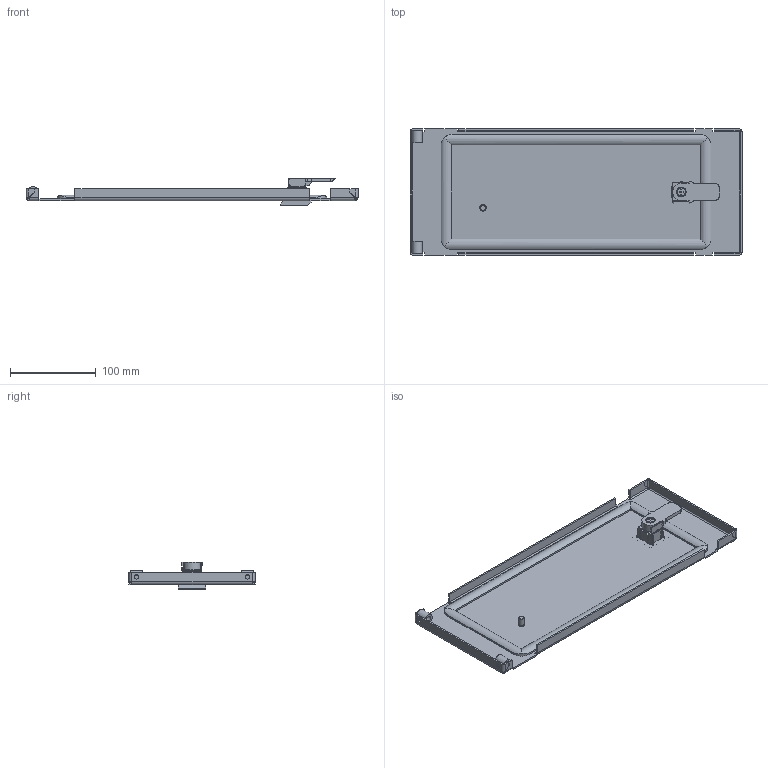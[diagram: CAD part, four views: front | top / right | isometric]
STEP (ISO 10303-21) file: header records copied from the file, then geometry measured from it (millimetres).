
FILE_DESCRIPTION(('STEP AP203'), '1');
FILE_NAME('Äâåðü ñåêöèîííàÿ 150õ400 ìì OptiBox M 419348 ÊÝÀÇ', '', ('UNSPECIFIED'), ('UNSPECIFIED'), 'C3D Converter', 'C3D Toolkit', '');
FILE_SCHEMA(('CONFIG_CONTROL_DESIGN'));
Length unit declared in the file: millimetre
Bounding box: 386.4 x 147 x 32.2 mm (x, y, z)
Volume: 191512.3 mm3; surface area: 172405.2 mm2
Topology: 6 solids, 6 shells, 355 faces, 928 edges, 588 vertices
Faces by surface type: plane 252, cylinder 92, bspline 8, cone 2, torus 1
Full cylindrical faces by diameter (mm): 0.75 x1, 1 x1, 3 x1, 5 x2, 6 x1, 7.5 x1, 9.3 x1, 10 x1, 20 x1
Entity records: 11965 total; most frequent: CARTESIAN_POINT 3199, ORIENTED_EDGE 1830, DIRECTION 1729, EDGE_CURVE 915, LINE 705, VECTOR 705, VERTEX_POINT 588, AXIS2_PLACEMENT_3D 512
